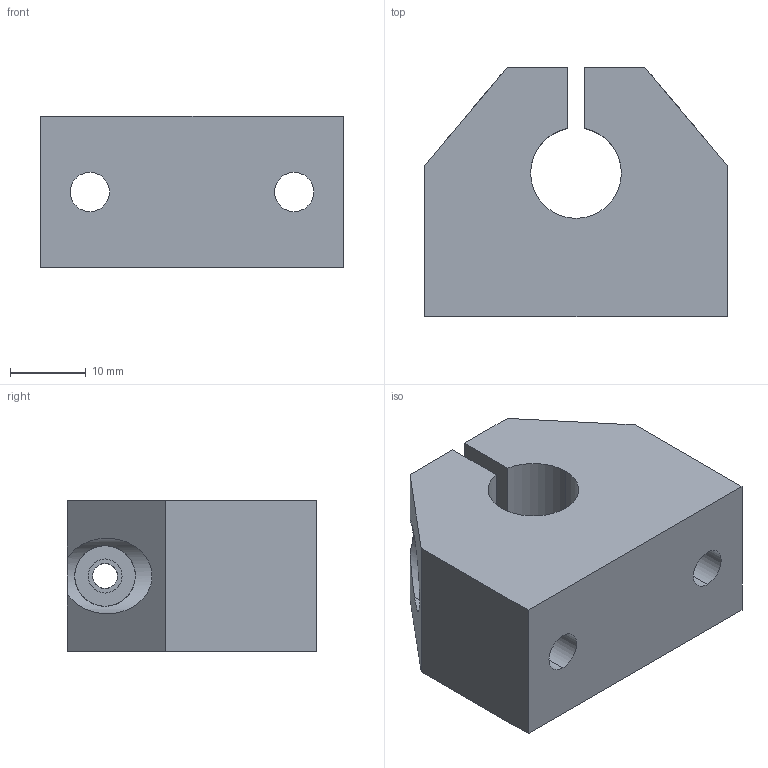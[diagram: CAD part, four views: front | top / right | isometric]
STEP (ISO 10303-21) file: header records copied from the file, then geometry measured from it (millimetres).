
FILE_DESCRIPTION (( 'STEP AP214' ), '1' );
FILE_NAME ('KWBC58-12.step', '2020-03-04T13:11:14', ( '' ), ( '' ), 'SwSTEP 2.0', 'SolidWorks 2019', '' );
FILE_SCHEMA (( 'AUTOMOTIVE_DESIGN' ));
Length unit declared in the file: millimetre
Products named in the file (1): KWBC58-12
Bounding box: 40 x 33 x 20 mm (x, y, z)
Volume: 18133.7 mm3; surface area: 7001.8 mm2
Topology: 1 solids, 1 shells, 31 faces, 84 edges, 56 vertices
Faces by surface type: cylinder 17, plane 14
Entity records: 1230 total; most frequent: CARTESIAN_POINT 326, ORIENTED_EDGE 168, DIRECTION 166, EDGE_CURVE 84, AXIS2_PLACEMENT_3D 60, VERTEX_POINT 56, LINE 46, VECTOR 46
